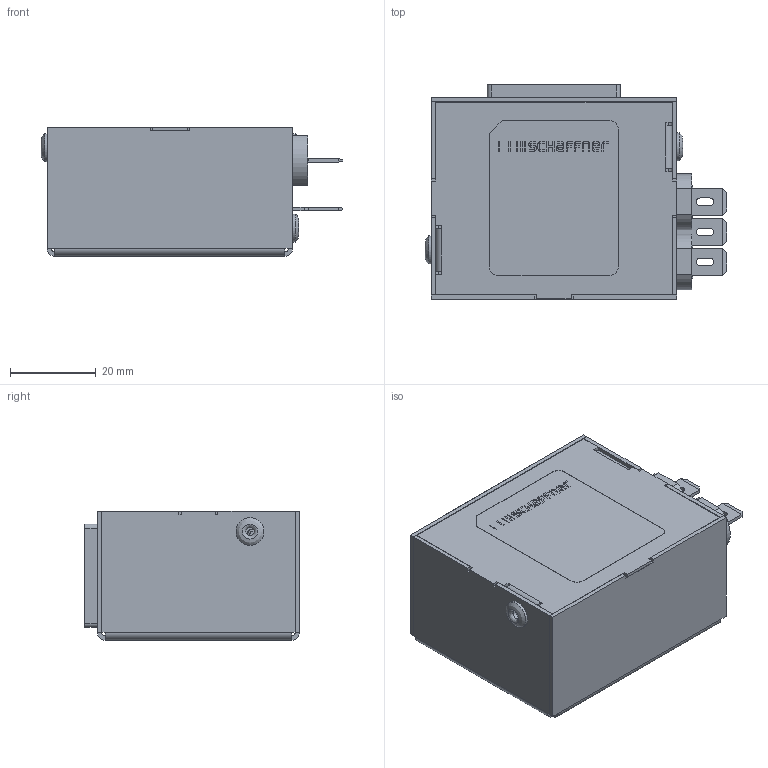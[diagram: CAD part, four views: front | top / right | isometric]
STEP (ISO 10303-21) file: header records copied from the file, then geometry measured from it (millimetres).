
FILE_DESCRIPTION((''),'2;1');
FILE_NAME('D:\_ PRODUCT\New project\3D request\FN9246B\FN9246B.stp','2012-08-17T14:53:20',('sayan.penton'),(''),'Autodesk Inventor 2010','Autodesk Inventor 2010','');
FILE_SCHEMA(('AUTOMOTIVE_DESIGN { 1 0 10303 214 1 1 1 1 }'));
Length unit declared in the file: millimetre
Products named in the file (1): Part2
Bounding box: 70.25 x 50 x 30.1 mm (x, y, z)
Volume: 16664.5 mm3; surface area: 28431 mm2
Topology: 4 solids, 4 shells, 784 faces, 2057 edges, 1316 vertices
Faces by surface type: plane 472, cylinder 166, bspline 131, cone 14, torus 1
Full cylindrical faces by diameter (mm): 2 x4, 2.5 x2, 3.2 x4, 3.3 x3, 3.4 x4, 3.77 x2, 3.8 x3, 4.2 x2, 4.3 x2, 5.2 x4, 6.3 x2, 6.5 x4
Entity records: 29702 total; most frequent: CARTESIAN_POINT 10423, ORIENTED_EDGE 3948, DIRECTION 3420, EDGE_CURVE 1974, VECTOR 1396, LINE 1396, VERTEX_POINT 1300, AXIS2_PLACEMENT_3D 1012
